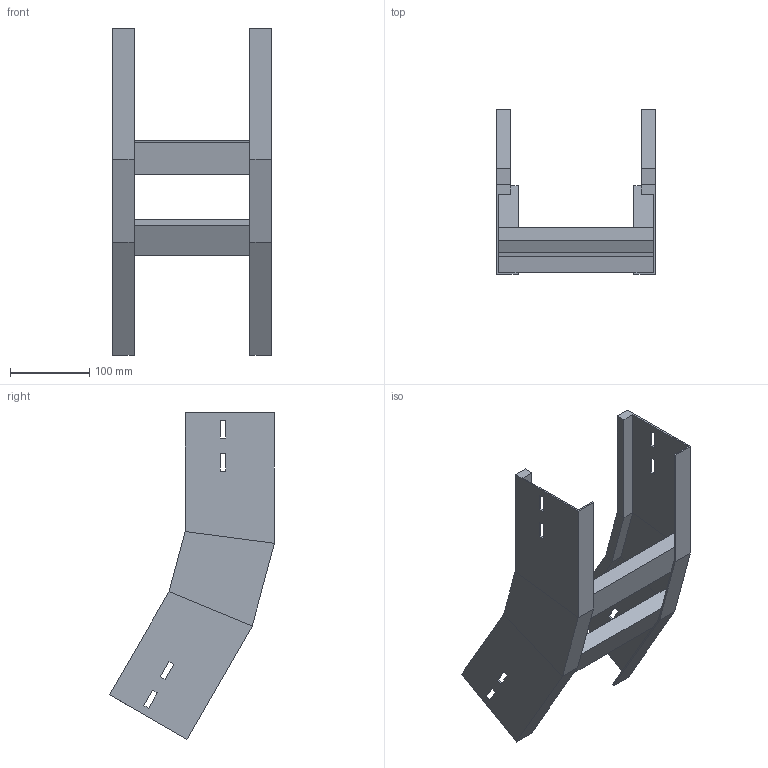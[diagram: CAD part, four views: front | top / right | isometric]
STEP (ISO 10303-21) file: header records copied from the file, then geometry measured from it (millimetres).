
FILE_DESCRIPTION (( 'STEP AP214' ), '1' );
FILE_NAME ('A2X32B3J200XX.step', '2025-03-20T09:59:09', ( '' ), ( '' ), 'SwSTEP 2.0', 'SolidWorks 2023', '' );
FILE_SCHEMA (( 'AUTOMOTIVE_DESIGN' ));
Length unit declared in the file: millimetre
Products named in the file (3): A2X32B3J200XX; LONGH.SALITA_30°_H112.5_R300; TRAVERSINO_200
Assembly tree (4 placements, depth 2):
  A2X32B3J200XX
    LONGH.SALITA_30°_H112.5_R300  x2
    TRAVERSINO_200  x2
Bounding box: 200 x 207.73 x 411.66 mm (x, y, z)
Volume: 688668.9 mm3; surface area: 305858 mm2
Topology: 4 solids, 4 shells, 96 faces, 232 edges, 144 vertices
Faces by surface type: plane 96
Entity records: 1472 total; most frequent: CARTESIAN_POINT 243, ORIENTED_EDGE 232, DIRECTION 226, EDGE_CURVE 116, VECTOR 116, LINE 116, VERTEX_POINT 72, EDGE_LOOP 56
